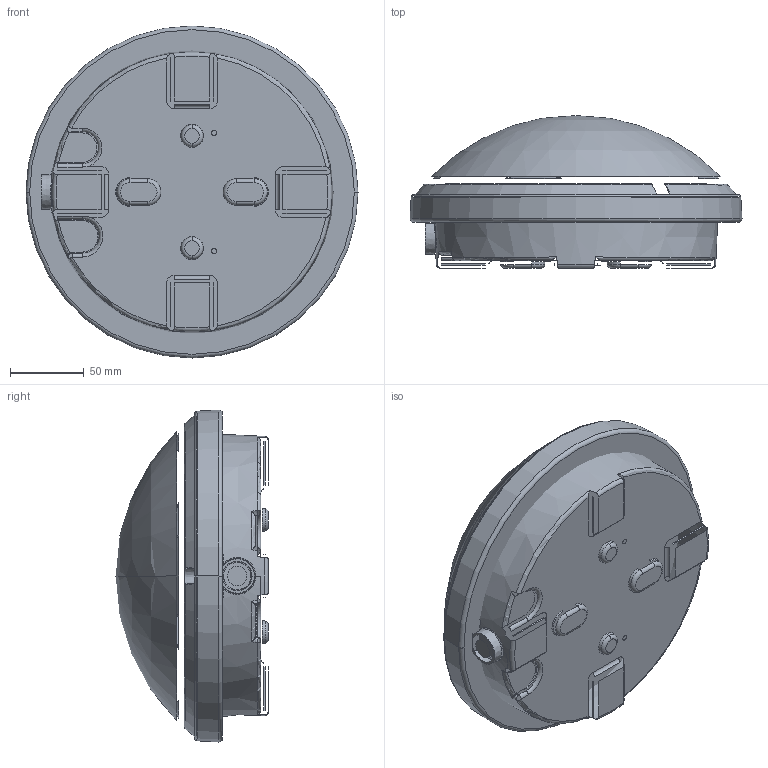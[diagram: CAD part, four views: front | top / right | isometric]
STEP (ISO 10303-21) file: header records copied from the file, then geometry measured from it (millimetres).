
FILE_DESCRIPTION((''),'2;1');
FILE_NAME('E27-60W-IP54_SW0001','2025-07-30T08:36:11',('Piccioli'),(''),'CREO PARAMETRIC BY PTC INC, 2025010','CREO PARAMETRIC BY PTC INC, 2025010','');
FILE_SCHEMA(('CONFIG_CONTROL_DESIGN'));
Length unit declared in the file: millimetre
Products named in the file (1): E27-60W-IP54_SW0001
Bounding box: 224.82 x 103.3 x 224.82 mm (x, y, z)
Surface area: 150635.9 mm2 (no closed solid volume)
Topology: 0 solids, 35 shells, 97 faces, 392 edges, 322 vertices
Faces by surface type: torus 33, plane 24, cone 14, cylinder 12, bspline 8, sphere 6
Entity records: 6091 total; most frequent: CARTESIAN_POINT 3117, DIRECTION 612, ORIENTED_EDGE 481, EDGE_CURVE 390, VERTEX_POINT 323, AXIS2_PLACEMENT_3D 261, CIRCLE 172, B_SPLINE_CURVE_WITH_KNOTS 128
